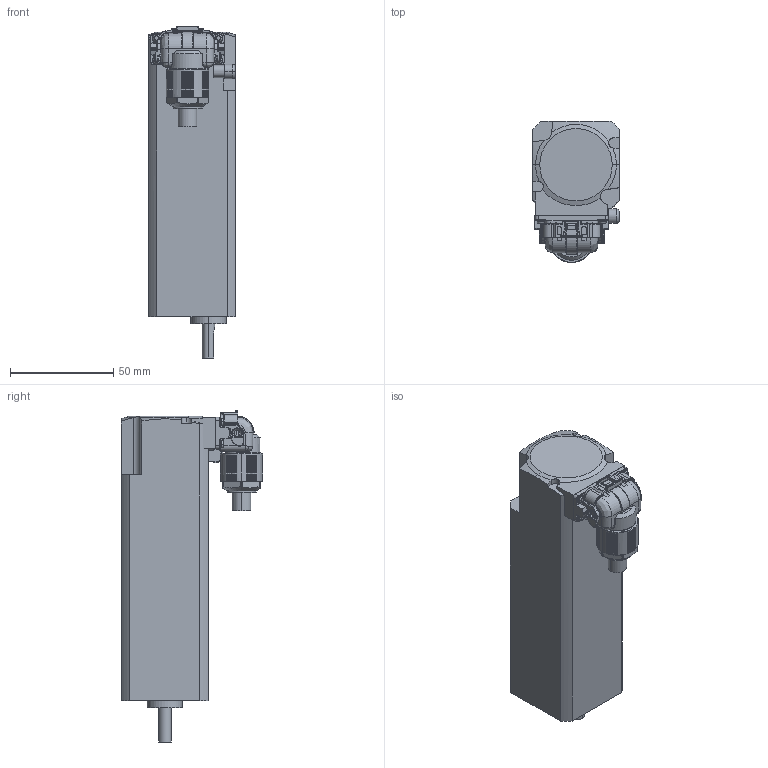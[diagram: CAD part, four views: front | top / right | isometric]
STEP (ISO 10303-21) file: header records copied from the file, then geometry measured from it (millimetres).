
FILE_DESCRIPTION (( 'STEP AP203' ), '1' );
FILE_NAME ('B1562L_F.step', '2025-07-07T00:13:46', ( '' ), ( '' ), 'SwSTEP 2.0', 'SolidWorks 2023', '' );
FILE_SCHEMA (( 'CONFIG_CONTROL_DESIGN' ));
Length unit declared in the file: millimetre
Products named in the file (1): B1562L_F
Bounding box: 42 x 68.3 x 160.55 mm (x, y, z)
Volume: 251404.7 mm3; surface area: 31513.7 mm2
Topology: 2 solids, 2 shells, 1048 faces, 2751 edges, 1694 vertices
Faces by surface type: plane 442, cylinder 387, bspline 148, cone 44, torus 27
Entity records: 35895 total; most frequent: CARTESIAN_POINT 11671, ORIENTED_EDGE 5442, DIRECTION 4593, EDGE_CURVE 2721, VERTEX_POINT 1694, AXIS2_PLACEMENT_3D 1583, LINE 1427, VECTOR 1427
